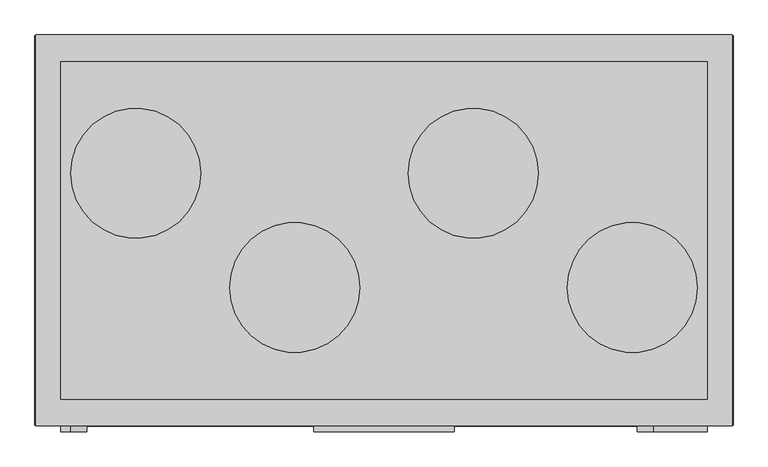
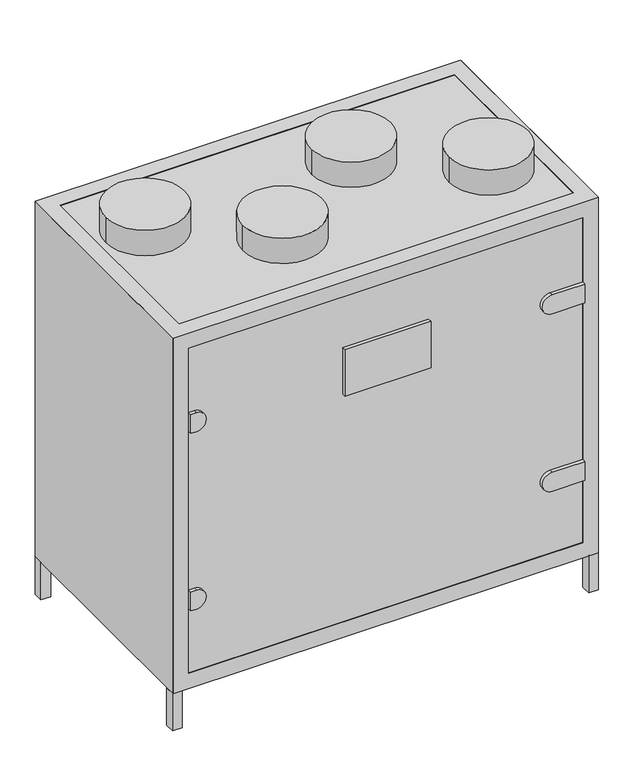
"""IFC4 building model written with IfcOpenShell, lengths in millimetres: proxy geometry, AVS 400...1600-V-RC(RG) : AVS 700-V-RG."""

from ifc_helpers import new_model, si_unit, point, frame, frame_2d, origin, origin_with_axes, place, context, project, spatial, polyline, circle_curve, trimmed, segment, composite_curve, outline, extrude, faceted_brep, source, transform, mapped, element, save


def mechanical_equipment_2839a8d2(model_context):
    return source(origin(), model_context, "Body", "SolidModel", [
        extrude(outline(polyline([(512.5, 300.0), (537.5, 300.0), (537.5, 275.0), (512.5, 275.0), (512.5, 300.0)])), origin_with_axes(), (0.0, 0.0, 1.0), 100.0),
        extrude(outline(polyline([(512.5, -300.0), (512.5, -275.0), (537.5, -275.0), (537.5, -300.0), (512.5, -300.0)])), origin_with_axes(), (0.0, 0.0, 1.0), 100.0),
        extrude(outline(polyline([(-537.5, 275.0), (-537.5, 300.0), (-512.5, 300.0), (-512.5, 275.0), (-537.5, 275.0)])), origin_with_axes(), (0.0, 0.0, 1.0), 100.0),
        extrude(outline(polyline([(-537.5, -275.0), (-512.5, -275.0), (-512.5, -300.0), (-537.5, -300.0), (-537.5, -275.0)])), origin_with_axes(), (0.0, 0.0, 1.0), 100.0),
        faceted_brep([(536.5, 301.0, 1047.0), (-536.5, 301.0, 1047.0), (-536.5, -301.0, 1047.0), (536.5, -301.0, 1047.0), (-497.5, 260.0, 1047.0), (20.0, 260.0, 1047.0), (497.5, 260.0, 1047.0), (497.5, -260.0, 1047.0), (20.0, -260.0, 1047.0), (-497.5, -260.0, 1047.0), (536.5, 301.0, 99.0), (536.5, -301.0, 99.0), (-536.5, -301.0, 99.0), (-536.5, 301.0, 99.0), (20.0, 260.0, 99.0), (-497.5, 260.0, 99.0), (-497.5, -260.0, 99.0), (20.0, -260.0, 99.0), (497.5, -260.0, 99.0), (497.5, 260.0, 99.0), (20.0, 301.0, 1006.0), (-497.5, 301.0, 1006.0), (-497.5, 301.0, 140.0), (20.0, 301.0, 140.0), (497.5, 301.0, 140.0), (497.5, 301.0, 1006.0), (-536.5, -260.0, 1006.0), (-536.5, -260.0, 140.0), (-536.5, 260.0, 140.0), (-536.5, 260.0, 1006.0), (-497.5, -301.0, 1006.0), (20.0, -301.0, 1006.0), (497.5, -301.0, 1006.0), (497.5, -301.0, 140.0), (20.0, -301.0, 140.0), (-497.5, -301.0, 140.0), (536.5, -260.0, 140.0), (536.5, -260.0, 1006.0), (536.5, 260.0, 1006.0), (536.5, 260.0, 140.0), (-497.5, 260.0, 1006.0), (20.0, 260.0, 1006.0), (20.0, 260.0, 140.0), (-497.5, 260.0, 140.0), (20.0, -260.0, 1006.0), (-497.5, -260.0, 1006.0), (-497.5, -260.0, 140.0), (20.0, -260.0, 140.0), (497.5, 260.0, 1006.0), (497.5, -260.0, 1006.0), (497.5, -260.0, 140.0), (497.5, 260.0, 140.0)], [[[0, 1, 2, 3], [4, 5, 6, 7, 8, 9]], [[10, 11, 12, 13], [14, 15, 16, 17, 18, 19]], [[1, 0, 10, 13], [20, 21, 22, 23, 24, 25]], [[2, 1, 13, 12], [26, 27, 28, 29]], [[3, 2, 12, 11], [30, 31, 32, 33, 34, 35]], [[0, 3, 11, 10], [36, 37, 38, 39]], [[5, 4, 40, 41]], [[15, 14, 42, 43]], [[9, 8, 44, 45]], [[17, 16, 46, 47]], [[7, 6, 48, 49]], [[19, 18, 50, 51]], [[32, 49, 50, 33]], [[48, 25, 24, 51]], [[30, 45, 44, 31]], [[20, 41, 40, 21]], [[46, 35, 34, 47]], [[42, 23, 22, 43]], [[26, 45, 46, 27]], [[49, 37, 36, 50]], [[50, 36, 39, 51]], [[43, 28, 27, 46]], [[51, 39, 38, 48]], [[40, 29, 28, 43]], [[37, 49, 48, 38]], [[29, 40, 45, 26]], [[4, 9, 45, 40]], [[16, 15, 43, 46]], [[45, 30, 35, 46]], [[21, 40, 43, 22]], [[6, 5, 41, 48]], [[14, 19, 51, 42]], [[8, 7, 49, 44]], [[18, 17, 47, 50]], [[49, 32, 31, 44]], [[41, 20, 25, 48]], [[33, 50, 47, 34]], [[23, 42, 51, 24]]]),
        extrude(outline(polyline([(-537.5, 300.0), (537.5, 300.0), (537.5, -300.0), (-537.5, -300.0), (-537.5, 300.0)])), frame((0.0, 0.0, 100.0), z_axis=(0.0, 0.0, 1.0), x_axis=(1.0, 0.0, 0.0)), (0.0, 0.0, 1.0), 946.0),
        extrude(outline(composite_curve([segment(trimmed(circle_curve(frame_2d((-382.5, 88.0)), 100.0), [point((-282.5, 88.0))], [point((-482.5, 88.0))], False, "CARTESIAN"), True, "CONTINUOUS"), segment(trimmed(circle_curve(frame_2d((-382.5, 88.0)), 100.0), [point((-482.5, 88.0))], [point((-282.5, 88.0))], False, "CARTESIAN"), True, "CONTINUOUS")], self_intersect=False)), frame((0.0, 0.0, 1047.0), z_axis=(0.0, 0.0, 1.0), x_axis=(1.0, 0.0, 0.0)), (0.0, 0.0, 1.0), 67.0),
        extrude(outline(composite_curve([segment(trimmed(circle_curve(frame_2d((-137.5, -88.0)), 100.0), [point((-37.5, -88.0))], [point((-237.5, -88.0))], False, "CARTESIAN"), True, "CONTINUOUS"), segment(trimmed(circle_curve(frame_2d((-137.5, -88.0)), 100.0), [point((-237.5, -88.0))], [point((-37.5, -88.0))], False, "CARTESIAN"), True, "CONTINUOUS")], self_intersect=False)), frame((0.0, 0.0, 1047.0), z_axis=(0.0, 0.0, 1.0), x_axis=(1.0, 0.0, 0.0)), (0.0, 0.0, 1.0), 67.0),
        extrude(outline(composite_curve([segment(trimmed(circle_curve(frame_2d((137.5, 88.0)), 100.0), [point((237.5, 88.0))], [point((37.5, 88.0))], False, "CARTESIAN"), True, "CONTINUOUS"), segment(trimmed(circle_curve(frame_2d((137.5, 88.0)), 100.0), [point((37.5, 88.0))], [point((237.5, 88.0))], False, "CARTESIAN"), True, "CONTINUOUS")], self_intersect=False)), frame((0.0, 0.0, 1047.0), z_axis=(0.0, 0.0, 1.0), x_axis=(1.0, 0.0, 0.0)), (0.0, 0.0, 1.0), 67.0),
        extrude(outline(composite_curve([segment(trimmed(circle_curve(frame_2d((382.5, -88.0)), 100.0), [point((482.5, -88.0))], [point((282.5, -88.0))], False, "CARTESIAN"), True, "CONTINUOUS"), segment(trimmed(circle_curve(frame_2d((382.5, -88.0)), 100.0), [point((282.5, -88.0))], [point((482.5, -88.0))], False, "CARTESIAN"), True, "CONTINUOUS")], self_intersect=False)), frame((0.0, 0.0, 1047.0), z_axis=(0.0, 0.0, 1.0), x_axis=(1.0, 0.0, 0.0)), (0.0, 0.0, 1.0), 67.0),
        extrude(outline(composite_curve([segment(polyline([(834.5, -482.7895396), (834.5, -497.5), (784.5, -497.5), (784.5, -482.7895396)]), True, "CONTINUOUS"), segment(trimmed(circle_curve(frame_2d((809.5, -482.7895396)), 25.0), [point((784.5, -482.7895396))], [point((834.5, -482.7895396))], False, "CARTESIAN"), True, "CONTINUOUS")], self_intersect=False)), frame((0.0, -310.0, 0.0), z_axis=(0.0, 1.0, 0.0), x_axis=(0.0, 0.0, 1.0)), (0.0, 0.0, 1.0), 10.0),
        extrude(outline(composite_curve([segment(polyline([(361.5, -482.7895396), (361.5, -497.5), (311.5, -497.5), (311.5, -482.7895396)]), True, "CONTINUOUS"), segment(trimmed(circle_curve(frame_2d((336.5, -482.7895396)), 25.0), [point((311.5, -482.7895396))], [point((361.5, -482.7895396))], False, "CARTESIAN"), True, "CONTINUOUS")], self_intersect=False)), frame((0.0, -310.0, 0.0), z_axis=(0.0, 1.0, 0.0), x_axis=(0.0, 0.0, 1.0)), (0.0, 0.0, 1.0), 10.0),
        extrude(outline(polyline([(108.5, -310.0), (-108.5, -310.0), (-108.5, -300.0), (108.5, -300.0), (108.5, -310.0)])), frame((0.0, 0.0, 747.75), z_axis=(0.0, 0.0, 1.0), x_axis=(1.0, 0.0, 0.0)), (0.0, 0.0, 1.0), 123.5),
        extrude(outline(composite_curve([segment(trimmed(circle_curve(frame_2d((809.5, 414.7895396)), 25.0), [point((834.5, 414.7895396))], [point((784.5, 414.7895396))], False, "CARTESIAN"), True, "CONTINUOUS"), segment(polyline([(784.5, 414.7895396), (784.5, 497.5), (834.5, 497.5), (834.5, 414.7895396)]), True, "CONTINUOUS")], self_intersect=False)), frame((0.0, -310.0, 0.0), z_axis=(0.0, 1.0, 0.0), x_axis=(0.0, 0.0, 1.0)), (0.0, 0.0, 1.0), 10.0),
        extrude(outline(composite_curve([segment(trimmed(circle_curve(frame_2d((336.5, 414.7895396)), 25.0), [point((361.5, 414.7895396))], [point((311.5, 414.7895396))], False, "CARTESIAN"), True, "CONTINUOUS"), segment(polyline([(311.5, 414.7895396), (311.5, 497.5), (361.5, 497.5), (361.5, 414.7895396)]), True, "CONTINUOUS")], self_intersect=False)), frame((0.0, -310.0, 0.0), z_axis=(0.0, 1.0, 0.0), x_axis=(0.0, 0.0, 1.0)), (0.0, 0.0, 1.0), 10.0),
    ])


if __name__ == "__main__":
    model = new_model("IFC4")
    model_context = context("Model", 3, world=origin())
    ifc_project = project(units=[si_unit("LENGTHUNIT", "METRE", prefix="MILLI")], contexts=[model_context])
    site = spatial("IfcSite", under=ifc_project)
    building = spatial("IfcBuilding", under=site)
    placement = place(None, origin())
    mechanical_equipment_shape = mechanical_equipment_2839a8d2(model_context)
    element("IfcBuildingElementProxy", 1, Name="AVS 400...1600-V-RC(RG) : AVS 700-V-RG", ObjectType="AVS 400...1600-V-RC(RG) : AVS 700-V-RG", at=placement, inside=building, context=model_context, shape_type="MappedRepresentation", body=[
        mapped(mechanical_equipment_shape, transform((0.0, 0.0, 0.0), x_axis=(1.0, 0.0, 0.0), y_axis=(0.0, 1.0, 0.0), z_axis=(0.0, 0.0, 1.0))),
    ])
    save(model, "model.ifc")
